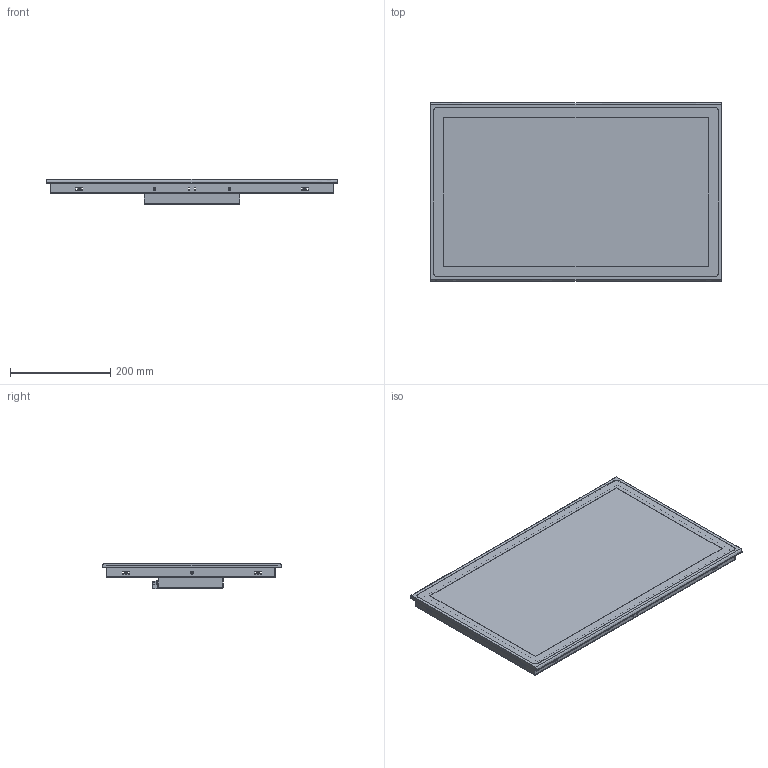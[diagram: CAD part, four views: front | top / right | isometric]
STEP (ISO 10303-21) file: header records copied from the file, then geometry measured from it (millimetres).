
FILE_DESCRIPTION((''),'2;1');
FILE_NAME('FPM-2308D-20241226','2025-08-01T19:36:59',('anthony'),(''),'CREO PARAMETRIC BY PTC INC, 2024063','CREO PARAMETRIC BY PTC INC, 2024063','');
FILE_SCHEMA(('CONFIG_CONTROL_DESIGN','SHAPE_APPEARANCE_LAYERS_GROUPS'));
Products named in the file (1): FPM-2308D-20241226
Bounding box: 581.9 x 356.9 x 50.59 mm (x, y, z)
Volume: 797184.4 mm3; surface area: 1079159.5 mm2
Topology: 10 solids, 39 shells, 2363 faces, 6547 edges, 4322 vertices
Faces by surface type: plane 1732, cylinder 501, cone 72, bspline 32, torus 20, sphere 4, extrusion 2
Entity records: 80555 total; most frequent: CARTESIAN_POINT 17101, ORIENTED_EDGE 12905, DIRECTION 11854, EDGE_CURVE 6543, VECTOR 5198, LINE 5196, VERTEX_POINT 4323, AXIS2_PLACEMENT_3D 3328
